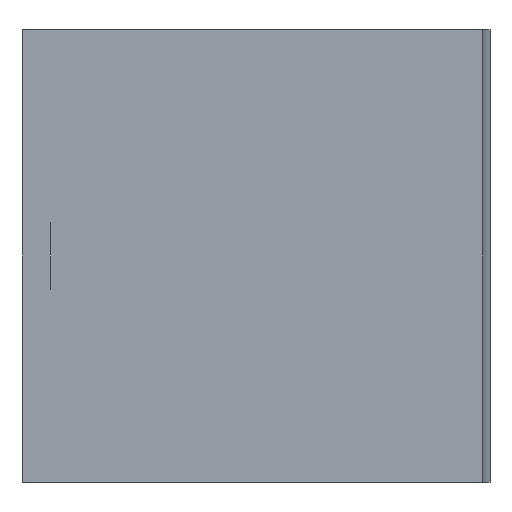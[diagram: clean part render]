
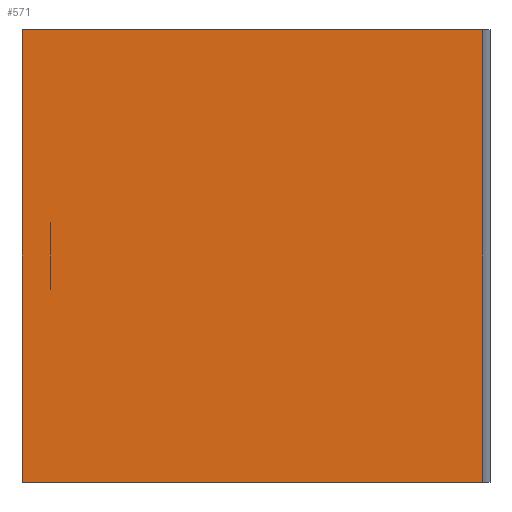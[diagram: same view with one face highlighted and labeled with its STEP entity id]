
A CAD part, left-side view. The second image highlights one B-rep face of the part: STEP entity #571.
In plain terms, the highlighted planar face has unit normal (-1, 0, 0).
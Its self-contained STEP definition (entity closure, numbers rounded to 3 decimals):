
#101 = CARTESIAN_POINT ( 'NONE',  ( 0., 0., 0. ) ) ;
#301 = VECTOR ( 'NONE', #1994, 1000. ) ;
#402 = LINE ( 'NONE', #1599, #2937 ) ;
#423 = CARTESIAN_POINT ( 'NONE',  ( 0., -30.48, 0. ) ) ;
#571 = ADVANCED_FACE ( 'NONE', ( #2206 ), #3704, .T. ) ;
#579 = CARTESIAN_POINT ( 'NONE',  ( 0., 0., -30. ) ) ;
#767 = CARTESIAN_POINT ( 'NONE',  ( 0., -30.48, -30. ) ) ;
#771 = DIRECTION ( 'NONE',  ( 0., 0., 1. ) ) ;
#797 = LINE ( 'NONE', #3216, #301 ) ;
#876 = CARTESIAN_POINT ( 'NONE',  ( 0., -30.48, -30.001 ) ) ;
#908 = DIRECTION ( 'NONE',  ( 0., 0., 1. ) ) ;
#938 = VECTOR ( 'NONE', #908, 1000. ) ;
#1002 = ORIENTED_EDGE ( 'NONE', *, *, #3807, .T. ) ;
#1016 = ORIENTED_EDGE ( 'NONE', *, *, #2343, .F. ) ;
#1055 = DIRECTION ( 'NONE',  ( -1., 0., 0. ) ) ;
#1088 = DIRECTION ( 'NONE',  ( 0., 1., 0. ) ) ;
#1353 = ORIENTED_EDGE ( 'NONE', *, *, #2263, .T. ) ;
#1453 = LINE ( 'NONE', #2675, #3361 ) ;
#1479 = AXIS2_PLACEMENT_3D ( 'NONE', #1682, #1055, #771 ) ;
#1484 = LINE ( 'NONE', #876, #938 ) ;
#1599 = CARTESIAN_POINT ( 'NONE',  ( 0., 0., 0. ) ) ;
#1682 = CARTESIAN_POINT ( 'NONE',  ( 0., -31., 0. ) ) ;
#1946 = VERTEX_POINT ( 'NONE', #579 ) ;
#1994 = DIRECTION ( 'NONE',  ( 0., 1., 0. ) ) ;
#2135 = VERTEX_POINT ( 'NONE', #101 ) ;
#2206 = FACE_OUTER_BOUND ( 'NONE', #2360, .T. ) ;
#2263 = EDGE_CURVE ( 'NONE', #3410, #2135, #797, .T. ) ;
#2322 = ORIENTED_EDGE ( 'NONE', *, *, #3468, .F. ) ;
#2343 = EDGE_CURVE ( 'NONE', #3611, #1946, #1453, .T. ) ;
#2360 = EDGE_LOOP ( 'NONE', ( #1002, #1353, #2322, #1016 ) ) ;
#2675 = CARTESIAN_POINT ( 'NONE',  ( 0., -31., -30. ) ) ;
#2937 = VECTOR ( 'NONE', #3409, 1000. ) ;
#3216 = CARTESIAN_POINT ( 'NONE',  ( 0., -31., 0. ) ) ;
#3361 = VECTOR ( 'NONE', #1088, 1000. ) ;
#3409 = DIRECTION ( 'NONE',  ( 0., 0., 1. ) ) ;
#3410 = VERTEX_POINT ( 'NONE', #423 ) ;
#3468 = EDGE_CURVE ( 'NONE', #1946, #2135, #402, .T. ) ;
#3611 = VERTEX_POINT ( 'NONE', #767 ) ;
#3704 = PLANE ( 'NONE',  #1479 ) ;
#3807 = EDGE_CURVE ( 'NONE', #3611, #3410, #1484, .T. ) ;
